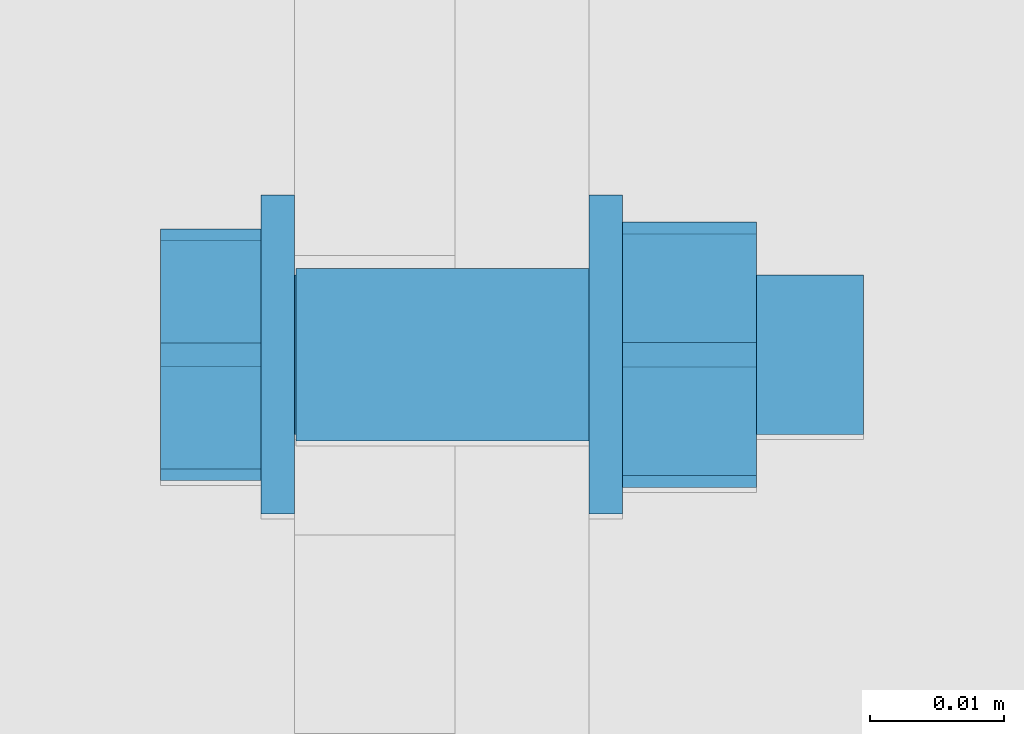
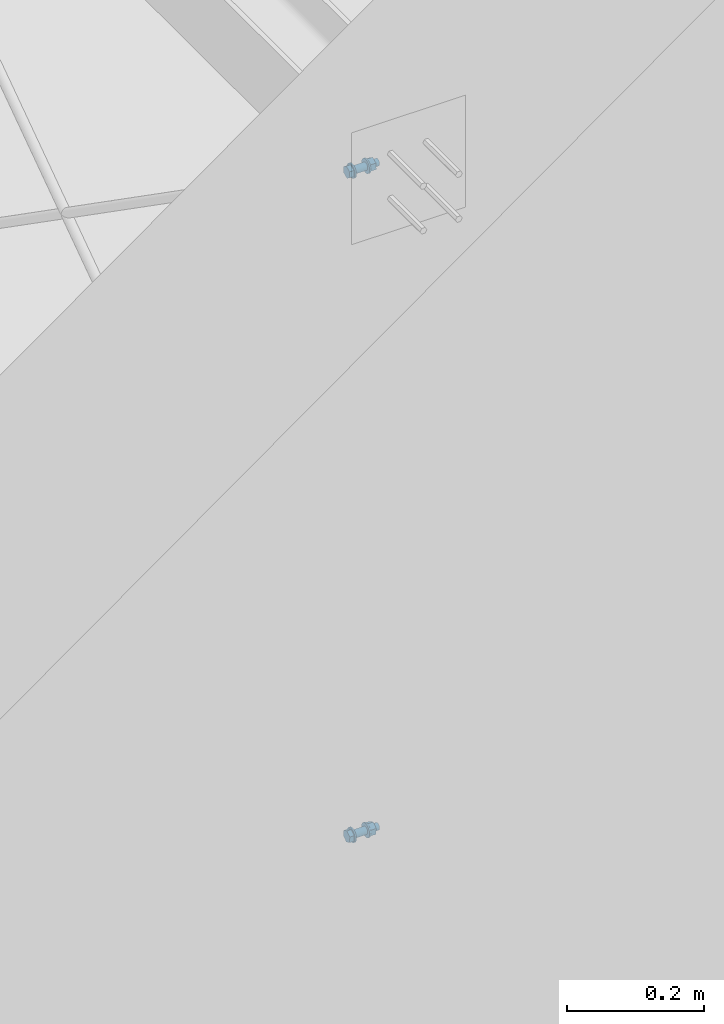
# One storey, part 237 of 271: 2 mechanical fasteners, 2 elements without a shape of their own.
"""IFC2X3 building model written with IfcOpenShell, lengths in millimetres."""

import ifcopenshell
import ifcopenshell.guid

model = None  # the IFC model being written
_history = None  # IfcOwnerHistory: only IFC2X3 demands one
_inside = {}  # id of a spatial element -> (the spatial element, [elements in it])
_under = {}  # id of a project, library or spatial element -> (it, [spatial elements below it])
_declared = {}  # id of a project -> (the project, [libraries it declares])
_typed = {}  # id of a type object -> (the type object, [elements of that type])
_made_of = {}  # id of a material, layer set ... -> (it, [elements and type objects made of it])


def new_model(schema):
    """Start an empty IFC model of exactly this schema.

    Asked for "IFC4X3", IfcOpenShell would pick the latest addendum, in which some entities
    have other attributes; the version numbers below select the first issue.
    IFC2X3 requires an IfcOwnerHistory on every rooted entity: one is made here for all.
    """
    global model, _history
    if schema == "IFC4X3":
        model = ifcopenshell.file(schema_version=(4, 3, 0, 0))
    else:
        model = ifcopenshell.file(schema=schema)
    _inside.clear()
    _under.clear()
    _declared.clear()
    _typed.clear()
    _made_of.clear()
    _history = None
    if model.schema == "IFC2X3":
        org = make("IfcOrganization", Name="unknown")
        user = make(
            "IfcPersonAndOrganization",
            ThePerson=make("IfcPerson", FamilyName="unknown"),
            TheOrganization=org,
        )
        app = make(
            "IfcApplication",
            ApplicationDeveloper=org,
            Version="unknown",
            ApplicationFullName="unknown",
            ApplicationIdentifier="unknown",
        )
        _history = make(
            "IfcOwnerHistory",
            OwningUser=user,
            OwningApplication=app,
            ChangeAction="ADDED",
            CreationDate=0,
        )
    return model


def make(cls, **values):
    """One entity of the class cls with the attributes given. An attribute that is None is left unset."""
    return model.create_entity(
        cls, **{name: value for name, value in values.items() if value is not None}
    )


def rooted(cls, **values):
    """An entity with a GlobalId (a new one), such as an element, a storey or a relation."""
    return make(cls, GlobalId=ifcopenshell.guid.new(), OwnerHistory=_history, **values)


def si_unit(unit_type, name, prefix=None):
    """IfcSIUnit, for example si_unit("LENGTHUNIT", "METRE", prefix="MILLI")."""
    return make("IfcSIUnit", UnitType=unit_type, Prefix=prefix, Name=name)


def assignment(units):
    """IfcUnitAssignment: the units of a project."""
    return None if units is None else make("IfcUnitAssignment", Units=units)


def point(xyz):
    """IfcCartesianPoint."""
    return None if xyz is None else make("IfcCartesianPoint", Coordinates=xyz)


def direction(xyz):
    """IfcDirection."""
    return None if xyz is None else make("IfcDirection", DirectionRatios=xyz)


def frame(location, z_axis=None, x_axis=None):
    """IfcAxis2Placement3D, a coordinate frame: its origin and axes. An axis left out is left unset."""
    return make(
        "IfcAxis2Placement3D",
        Location=point(location),
        Axis=direction(z_axis),
        RefDirection=direction(x_axis),
    )


def frame_2d(location, x_axis=None):
    """IfcAxis2Placement2D, a coordinate frame in the plane: its origin and x axis."""
    return make(
        "IfcAxis2Placement2D", Location=point(location), RefDirection=direction(x_axis)
    )


def origin_with_axes():
    """The frame at (0, 0, 0) with the z axis (0, 0, 1) and the x axis (1, 0, 0) written out."""
    return frame((0.0, 0.0, 0.0), z_axis=(0.0, 0.0, 1.0), x_axis=(1.0, 0.0, 0.0))


def origin_2d_with_axis():
    """The frame at (0, 0) in the plane with the x axis (1, 0) written out."""
    return frame_2d((0.0, 0.0), x_axis=(1.0, 0.0))


def place(relative_to, where):
    """IfcLocalPlacement: puts the frame where relative to a parent placement (None: the world)."""
    return make(
        "IfcLocalPlacement", PlacementRelTo=relative_to, RelativePlacement=where
    )


def context(
    kind, dimensions, precision=None, world=None, true_north=None, identifier=None
):
    """IfcGeometricRepresentationContext, for example the 3D "Model" context."""
    return make(
        "IfcGeometricRepresentationContext",
        ContextIdentifier=identifier,
        ContextType=kind,
        CoordinateSpaceDimension=dimensions,
        Precision=precision,
        WorldCoordinateSystem=world,
        TrueNorth=true_north,
    )


def subcontext(parent, identifier, kind, view, scale=None):
    """IfcGeometricRepresentationSubContext, for example "Body" below "Model"."""
    return make(
        "IfcGeometricRepresentationSubContext",
        ContextIdentifier=identifier,
        ContextType=kind,
        ParentContext=parent,
        TargetScale=scale,
        TargetView=view,
    )


def project(units=None, contexts=None):
    """IfcProject with its units and contexts."""
    return rooted(
        "IfcProject",
        Name="project",
        RepresentationContexts=contexts,
        UnitsInContext=assignment(units),
    )


def spatial(cls, under=None, at=None, **own):
    """A site, building, storey or space (cls), placed at a placement, below another one or the project."""
    s = rooted(cls, ObjectPlacement=at, **own)
    if under is not None:
        _under.setdefault(under.id(), (under, []))[1].append(s)
    return s


def polyline(points):
    """IfcPolyline through the points."""
    return make("IfcPolyline", Points=[point(p) for p in points])


def profile(cls, at=None, kind="AREA", **sizes):
    """A parametric profile (cls). Its sizes go by their IFC names, for example OverallWidth=200.0."""
    return make(cls, ProfileType=kind, Position=at, **sizes)


def circle(**sizes):
    """IfcCircleProfileDef."""
    return profile("IfcCircleProfileDef", **sizes)


def outline(outer, holes=None, kind="AREA"):
    """IfcArbitraryClosedProfileDef: a profile drawn as a closed curve; with holes, ...WithVoids."""
    if holes is None:
        return make("IfcArbitraryClosedProfileDef", ProfileType=kind, OuterCurve=outer)
    return make(
        "IfcArbitraryProfileDefWithVoids",
        ProfileType=kind,
        OuterCurve=outer,
        InnerCurves=holes,
    )


def extrude(swept, where, along, depth):
    """IfcExtrudedAreaSolid: the profile swept, set in the frame where, extruded along a direction by depth."""
    return make(
        "IfcExtrudedAreaSolid",
        SweptArea=swept,
        Position=where,
        ExtrudedDirection=direction(along),
        Depth=depth,
    )


def shape(context_of_items, identifier, shape_type, items):
    """IfcShapeRepresentation: the items that make up one representation, for example the "Body"."""
    return make(
        "IfcShapeRepresentation",
        ContextOfItems=context_of_items,
        RepresentationIdentifier=identifier,
        RepresentationType=shape_type,
        Items=items,
    )


def source(mapping_origin, context_of_items, identifier, shape_type, items):
    """IfcRepresentationMap: a shape defined once, which mapped items show again and again."""
    return make(
        "IfcRepresentationMap",
        MappingOrigin=mapping_origin,
        MappedRepresentation=shape(context_of_items, identifier, shape_type, items),
    )


def transform(
    local_origin,
    x_axis=None,
    y_axis=None,
    z_axis=None,
    scale=None,
    scale2=None,
    scale3=None,
    uniform=True,
):
    """IfcCartesianTransformationOperator3D, or its non-uniform kind. x_axis, y_axis, z_axis: its Axis1, 2, 3."""
    if uniform:
        return make(
            "IfcCartesianTransformationOperator3D",
            Axis1=direction(x_axis),
            Axis2=direction(y_axis),
            LocalOrigin=point(local_origin),
            Scale=scale,
            Axis3=direction(z_axis),
        )
    return make(
        "IfcCartesianTransformationOperator3DnonUniform",
        Axis1=direction(x_axis),
        Axis2=direction(y_axis),
        LocalOrigin=point(local_origin),
        Scale=scale,
        Axis3=direction(z_axis),
        Scale2=scale2,
        Scale3=scale3,
    )


def mapped(mapping_source, mapping_target):
    """IfcMappedItem: shows the shape of a source again, moved by a transform."""
    return make(
        "IfcMappedItem", MappingSource=mapping_source, MappingTarget=mapping_target
    )


def material(Name=None, Category=None):
    """IfcMaterial."""
    return make("IfcMaterial", Name=Name, Category=Category)


def made_of(thing, what):
    """Note that an element or type object is made of a material, layer set ...; save() writes the relation."""
    if what is not None:
        _made_of.setdefault(what.id(), (what, []))[1].append(thing)
    return thing


def type_object(cls, material=None, **own):
    """A type object (cls), such as IfcWallType, which elements share."""
    return made_of(rooted(cls, **own), material)


def element(
    cls,
    number,
    at=None,
    inside=None,
    cuts=None,
    type_object=None,
    material=None,
    context=None,
    identifier="Body",
    shape_type=None,
    held_by="IfcProductDefinitionShape",
    body=None,
    shapes=None,
    **own,
):
    """One element of the class cls, such as IfcWall. Its Tag is "e" and its number.

    at: its placement. inside: the storey or other place that contains it. cuts: it is an
    opening in that element (IfcRelVoidsElement). A single representation is given by context,
    identifier, shape_type and body (its items); several are given by shapes. held_by: the class
    of the entity that holds the representations. save() writes the other relations.
    """
    e = rooted(cls, Tag="e%d" % number, ObjectPlacement=at, **own)
    if body is not None:
        shapes = [shape(context, identifier, shape_type, body)]
    if shapes is not None:
        e.Representation = make(held_by, Representations=shapes)
    if inside is not None:
        _inside.setdefault(inside.id(), (inside, []))[1].append(e)
    if cuts is not None:
        rooted(
            "IfcRelVoidsElement", RelatingBuildingElement=cuts, RelatedOpeningElement=e
        )
    if type_object is not None:
        _typed.setdefault(type_object.id(), (type_object, []))[1].append(e)
    return made_of(e, material)


def aggregate(whole, parts):
    """IfcRelAggregates: a whole, such as a stair, and the parts it consists of."""
    return rooted("IfcRelAggregates", RelatingObject=whole, RelatedObjects=parts)


def save(model, path):
    """Write the relations noted so far, then the file.

    IfcRelAggregates (storeys below a building ...), IfcRelContainedInSpatialStructure (elements
    in a storey), IfcRelDefinesByType, IfcRelAssociatesMaterial and IfcRelDeclares: one each for
    every whole, place, type object, material and project.
    """
    for whole, parts in _under.values():
        aggregate(whole, parts)
    for where, things in _inside.values():
        rooted(
            "IfcRelContainedInSpatialStructure",
            RelatedElements=things,
            RelatingStructure=where,
        )
    for kind, things in _typed.values():
        rooted("IfcRelDefinesByType", RelatedObjects=things, RelatingType=kind)
    for what, things in _made_of.values():
        rooted("IfcRelAssociatesMaterial", RelatedObjects=things, RelatingMaterial=what)
    for by, libraries in _declared.values():
        rooted("IfcRelDeclares", RelatingContext=by, RelatedDefinitions=libraries)
    model.write(path)


model = new_model("IFC2X3")

# Units and contexts
model_context = context("Model", 3, precision=1e-05, world=origin_with_axes())
body_context = subcontext(model_context, "Body", "Model", "MODEL_VIEW")
ifc_project = project(units=[si_unit("LENGTHUNIT", "METRE", prefix="MILLI"), si_unit("AREAUNIT", "SQUARE_METRE"), si_unit("VOLUMEUNIT", "CUBIC_METRE"), si_unit("MASSUNIT", "GRAM", prefix="KILO"), si_unit("TIMEUNIT", "SECOND"), si_unit("PLANEANGLEUNIT", "RADIAN"), si_unit("SOLIDANGLEUNIT", "STERADIAN"), si_unit("THERMODYNAMICTEMPERATUREUNIT", "DEGREE_CELSIUS"), si_unit("LUMINOUSINTENSITYUNIT", "LUMEN")], contexts=[model_context])

# Site, building, storey
site_placement = place(None, origin_with_axes())
site = spatial("IfcSite", under=ifc_project, at=site_placement, Name="Undefined", CompositionType="ELEMENT")
building_placement = place(site_placement, origin_with_axes())
building = spatial("IfcBuilding", under=site, at=building_placement, Name="Undefined", CompositionType="ELEMENT")
storey_placement = place(building_placement, origin_with_axes())
storey = spatial("IfcBuildingStorey", under=building, at=storey_placement, Name="Undefined", CompositionType="ELEMENT", Elevation=0.0)

# Assembly, mechanical fastener
assembly_1_placement = place(storey_placement, origin_with_axes())
assembly_1 = element("IfcElementAssembly", 1, at=assembly_1_placement, inside=storey, AssemblyPlace="NOTDEFINED", PredefinedType="RIGID_FRAME")
ifc_material = material(Name="Undefined")
mechanical_fastener_type = type_object("IfcMechanicalFastenerType", Name="Bolt assembly")
shared_shape = source(origin_with_axes(), body_context, "Body", "SweptSolid", [
    extrude(circle(Radius=6.5, at=origin_2d_with_axis()), frame((0.0, -5.1, 0.0), z_axis=(0.0, 1.0, 0.0), x_axis=(1.0, 0.0, 0.0)), (0.0, 0.0, 1.0), 10.1),
    extrude(circle(Radius=6.5, at=origin_2d_with_axis()), frame((0.0, -16.9, 0.0), z_axis=(0.0, 1.0, 0.0), x_axis=(1.0, 0.0, 0.0)), (0.0, 0.0, 1.0), 12.0),
    extrude(outline(polyline([(10.39230484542, 0.0), (5.19615242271, 9.00000000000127), (-5.19615242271, 9.00000000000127), (-10.39230484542, 0.0), (-5.19615242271, -9.00000000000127), (5.19615242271, -9.00000000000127), (10.39230484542, 0.0)])), frame((0.0, -27.0, 0.0), z_axis=(0.0, 1.0, 0.0), x_axis=(1.0, 0.0, 0.0)), (0.0, 0.0, 1.0), 7.5),
    extrude(circle(Radius=6.0, at=origin_2d_with_axis()), frame((0.0, -19.5, 0.0), z_axis=(0.0, 1.0, 0.0), x_axis=(1.0, 0.0, 0.0)), (0.0, 0.0, 1.0), 45.0),
    extrude(circle(Radius=12.0, at=origin_2d_with_axis()), frame((0.0, -19.5, 0.0), z_axis=(0.0, 1.0, 0.0), x_axis=(1.0, 0.0, 0.0)), (0.0, 0.0, 1.0), 2.5),
    extrude(circle(Radius=12.0, at=origin_2d_with_axis()), frame((0.0, 5.00000000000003, 0.0), z_axis=(0.0, 1.0, 0.0), x_axis=(1.0, 0.0, 0.0)), (0.0, 0.0, 1.0), 2.5),
    extrude(outline(polyline([(10.96965511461, 0.0), (5.484827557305, 9.50000000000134), (-5.484827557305, 9.50000000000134), (-10.96965511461, 0.0), (-5.484827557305, -9.50000000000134), (5.484827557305, -9.50000000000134), (10.96965511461, 0.0)])), frame((0.0, 7.50000000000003, 0.0), z_axis=(0.0, 1.0, 0.0), x_axis=(1.0, 0.0, 0.0)), (0.0, 0.0, 1.0), 10.0),
])
mechanical_fastener_1_placement = place(assembly_1_placement, frame((6358.37568798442, 150.779594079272, 87.358692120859), z_axis=(0.0, 0.570474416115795, -0.821315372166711), x_axis=(0.0, 0.821315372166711, 0.570474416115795)))
mechanical_fastener_1 = element("IfcMechanicalFastener", 2, at=mechanical_fastener_1_placement, type_object=mechanical_fastener_type, material=ifc_material, Name="Bolt assembly", NominalDiameter=12.0, NominalLength=45.0, context=body_context, shape_type="MappedRepresentation", body=[
    mapped(shared_shape, transform((0.0, 0.0, 0.0))),
])
aggregate(assembly_1, [mechanical_fastener_1])

assembly_2_placement = place(storey_placement, origin_with_axes())
assembly_2 = element("IfcElementAssembly", 3, at=assembly_2_placement, inside=storey, AssemblyPlace="NOTDEFINED", PredefinedType="RIGID_FRAME")
mechanical_fastener_2_placement = place(assembly_2_placement, frame((6358.37568798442, 150.77959407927, 1274.34130768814), z_axis=(0.0, -0.570474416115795, -0.821315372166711), x_axis=(0.0, 0.821315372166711, -0.570474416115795)))
mechanical_fastener_2 = element("IfcMechanicalFastener", 4, at=mechanical_fastener_2_placement, type_object=mechanical_fastener_type, material=ifc_material, Name="Bolt assembly", NominalDiameter=12.0, NominalLength=45.0, context=body_context, shape_type="MappedRepresentation", body=[
    mapped(shared_shape, transform((0.0, 0.0, 0.0))),
])
aggregate(assembly_2, [mechanical_fastener_2])

save(model, "model.ifc")
